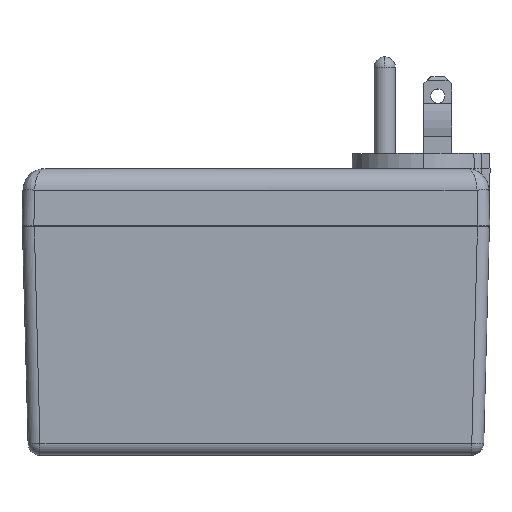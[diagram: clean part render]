
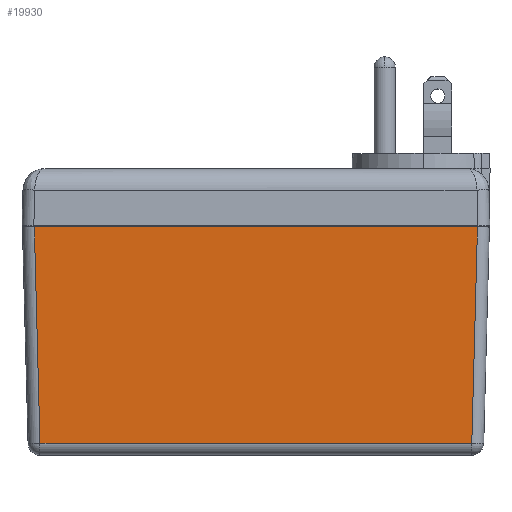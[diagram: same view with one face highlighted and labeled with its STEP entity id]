
A CAD part, top view. The second image highlights one B-rep face of the part: STEP entity #19930.
In plain terms, the highlighted planar face has unit normal (0, -0.026, 1).
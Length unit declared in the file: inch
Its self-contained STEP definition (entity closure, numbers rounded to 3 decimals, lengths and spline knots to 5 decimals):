
#1108 = AXIS2_PLACEMENT_3D ( 'NONE', #17861, #17854, #17853 ) ;
#1996 = FACE_OUTER_BOUND ( 'NONE', #18351, .T. ) ;
#3894 = DIRECTION ( 'NONE',  ( 1., 0., 0. ) ) ;
#3895 = CARTESIAN_POINT ( 'NONE',  ( -2.0545, 0., 1.116 ) ) ;
#3898 = DIRECTION ( 'NONE',  ( 0.026, -0.999, -0.026 ) ) ;
#3899 = CARTESIAN_POINT ( 'NONE',  ( -1.94961, 0.00274, 1.11607 ) ) ;
#3901 = DIRECTION ( 'NONE',  ( 0.026, 0.999, 0.026 ) ) ;
#3903 = CARTESIAN_POINT ( 'NONE',  ( 1.94679, -0.10471, 1.11326 ) ) ;
#3949 = DIRECTION ( 'NONE',  ( 1., 0., 0. ) ) ;
#3955 = CARTESIAN_POINT ( 'NONE',  ( -2.0545, -1.90275, 1.06617 ) ) ;
#4498 = CARTESIAN_POINT ( 'NONE',  ( -1.94954, 0., 1.116 ) ) ;
#4683 = CARTESIAN_POINT ( 'NONE',  ( 1.94954, 0., 1.116 ) ) ;
#4707 = CARTESIAN_POINT ( 'NONE',  ( -1.89971, -1.90275, 1.06617 ) ) ;
#4722 = CARTESIAN_POINT ( 'NONE',  ( 1.89971, -1.90275, 1.06617 ) ) ;
#6435 = VERTEX_POINT ( 'NONE', #4722 ) ;
#6449 = VERTEX_POINT ( 'NONE', #4707 ) ;
#6467 = VERTEX_POINT ( 'NONE', #4683 ) ;
#6606 = VERTEX_POINT ( 'NONE', #4498 ) ;
#12622 = EDGE_CURVE ( 'NONE', #6449, #6435, #13771, .T. ) ;
#12636 = EDGE_CURVE ( 'NONE', #6435, #6467, #13718, .T. ) ;
#12637 = EDGE_CURVE ( 'NONE', #6606, #6449, #13716, .T. ) ;
#12638 = EDGE_CURVE ( 'NONE', #6606, #6467, #13714, .T. ) ;
#13713 = VECTOR ( 'NONE', #3894, 39.37008 ) ;
#13714 = LINE ( 'NONE', #3895, #13713 ) ;
#13715 = VECTOR ( 'NONE', #3898, 39.37008 ) ;
#13716 = LINE ( 'NONE', #3899, #13715 ) ;
#13717 = VECTOR ( 'NONE', #3901, 39.37008 ) ;
#13718 = LINE ( 'NONE', #3903, #13717 ) ;
#13771 = LINE ( 'NONE', #3955, #13773 ) ;
#13773 = VECTOR ( 'NONE', #3949, 39.37008 ) ;
#17853 = DIRECTION ( 'NONE',  ( 0., -1., -0.026 ) ) ;
#17854 = DIRECTION ( 'NONE',  ( 0., -0.026, 1. ) ) ;
#17859 = PLANE ( 'NONE',  #1108 ) ;
#17861 = CARTESIAN_POINT ( 'NONE',  ( -2.0545, 0., 1.116 ) ) ;
#18351 = EDGE_LOOP ( 'NONE', ( #19133, #19132, #19131, #19130 ) ) ;
#19130 = ORIENTED_EDGE ( 'NONE', *, *, #12637, .T. ) ;
#19131 = ORIENTED_EDGE ( 'NONE', *, *, #12638, .F. ) ;
#19132 = ORIENTED_EDGE ( 'NONE', *, *, #12636, .T. ) ;
#19133 = ORIENTED_EDGE ( 'NONE', *, *, #12622, .T. ) ;
#19930 = ADVANCED_FACE ( 'NONE', ( #1996 ), #17859, .T. ) ;
